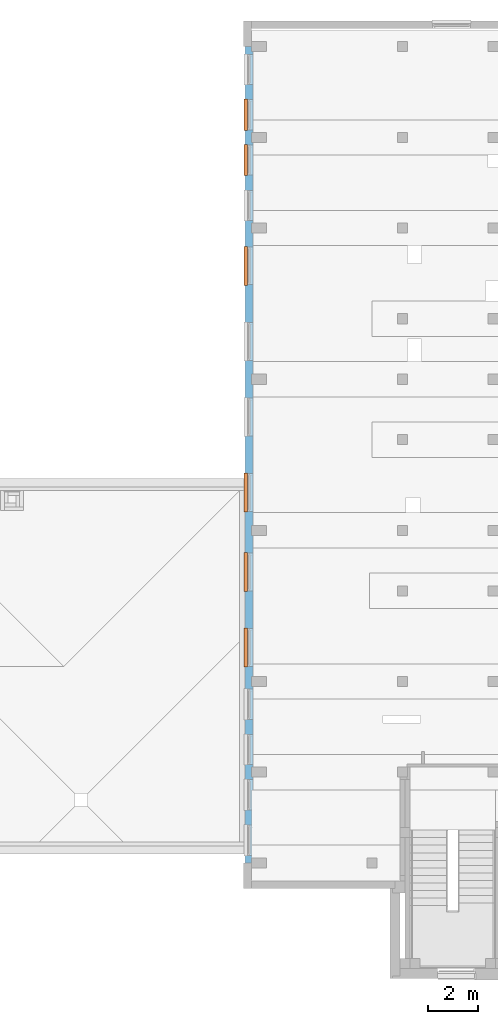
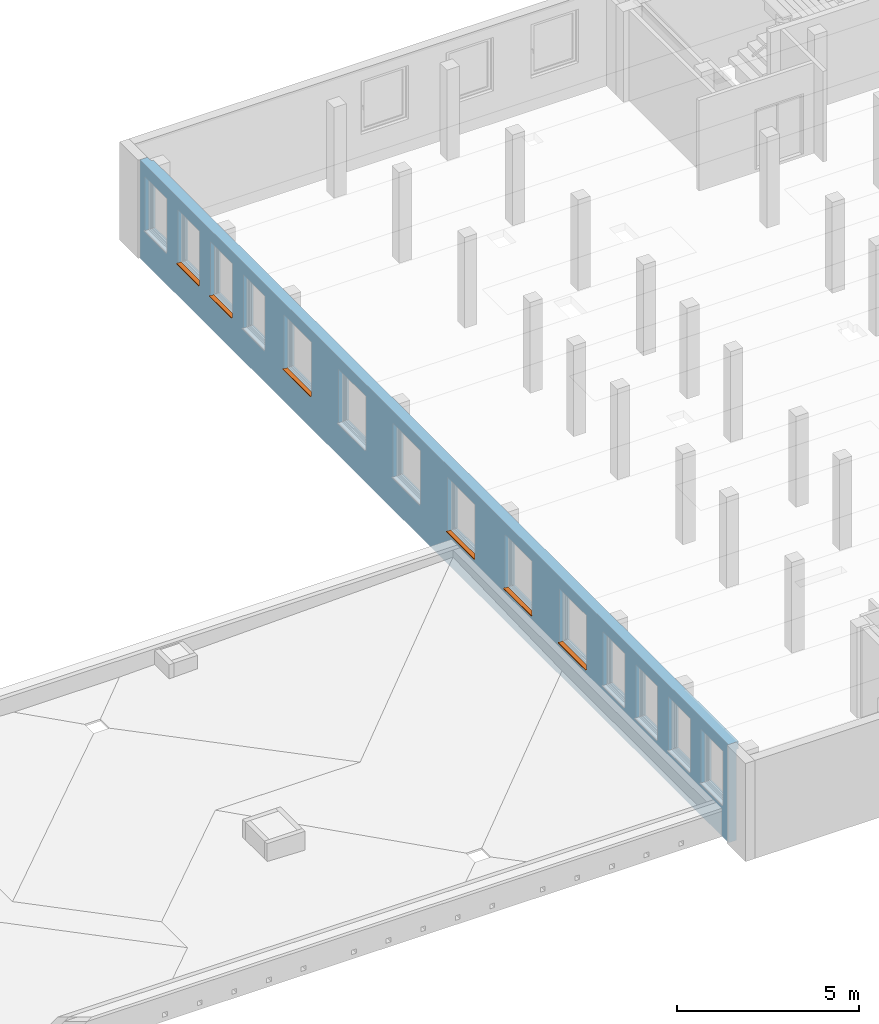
# One storey, part 20 of 27: 6 proxies, 14 openings, plus 1 element that does not belong to this part.
"""IFC4 building model written with IfcOpenShell, lengths in metres."""

from ifc_helpers import new_model, entity, si_unit, converted_unit, derived_unit, frame, origin, origin_with_axes, place, context, subcontext, project, spatial, polyline, outline, extrude, clip, bounded_halfspace, faceted_brep, source, transform, mapped, material, layer, layer_set, layer_usage, element, fill, save


model = new_model("IFC4")

# Units and contexts
model_context = context("Model", 3, precision=1e-05, world=origin())
body_context = subcontext(model_context, "Body", "Model", "MODEL_VIEW")
ifc_project = project(units=[si_unit("LENGTHUNIT", "METRE"), si_unit("AREAUNIT", "SQUARE_METRE"), si_unit("VOLUMEUNIT", "CUBIC_METRE"), si_unit("MASSUNIT", "GRAM", prefix="KILO"), converted_unit("PLANEANGLEUNIT", "DEGREE", entity("IfcPlaneAngleMeasure", 0.0174532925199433), si_unit("PLANEANGLEUNIT", "RADIAN"), dimensions=[0, 0, 0, 0, 0, 0, 0]), derived_unit("THERMALTRANSMITTANCEUNIT", [(si_unit("POWERUNIT", "WATT"), 1), (si_unit("THERMODYNAMICTEMPERATUREUNIT", "KELVIN"), -1), (si_unit("LENGTHUNIT", "METRE"), -2)]), derived_unit("VOLUMETRICFLOWRATEUNIT", [(si_unit("LENGTHUNIT", "METRE"), 3), (converted_unit("TIMEUNIT", "hour", entity("IfcTimeMeasure", 3600.0), si_unit("TIMEUNIT", "SECOND"), dimensions=[0, 0, 1, 0, 0, 0, 0]), -1), (si_unit("LENGTHUNIT", "METRE"), -1)])], contexts=[model_context])

# Site, building, storey
site_placement = place(None, origin())
site = spatial("IfcSite", under=ifc_project, at=site_placement, Name="3. ASŘ", CompositionType="ELEMENT")
building_placement = place(site_placement, origin())
building = spatial("IfcBuilding", under=site, at=building_placement, Name="Pavilon C", CompositionType="ELEMENT")
storey_placement = place(building_placement, frame((0.0, 0.0, 7.2)))
storey = spatial("IfcBuildingStorey", under=building, at=storey_placement, Name="Půdorys 3.NP", CompositionType="ELEMENT", Elevation=7.2)

# Wall, openings, proxies
ifc_material_1 = material(Name="ZELEZOBETONOVÁ KCE")
ifc_layer = layer(ifc_material_1, 0.32)
ifc_layer_set = layer_set([ifc_layer])
ifc_layer_usage = layer_usage(ifc_layer_set, "AXIS2", "POSITIVE", 0.0)
wall_placement = place(storey_placement, frame((24.5, 32.4, -0.1), z_axis=(0.0, 0.0, 1.0), x_axis=(-2.24566593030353e-16, -1.0, 0.0)))
wall = element("IfcWall", 1, at=wall_placement, inside=storey, material=ifc_layer_usage, Name="ZELEZOBETONOVÁ KCE", context=body_context, shape_type="Clipping", body=[
    clip(clip(clip(clip(clip(clip(clip(extrude(outline(polyline([(-32.4, 0.0), (-7.18613097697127e-17, -1.61376495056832e-32), (-7.18613097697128e-17, 0.32), (-32.2, 0.32), (-32.2, 0.25), (-32.4, 0.25), (-32.4, 0.0)])), frame((32.4, 0.0, 0.0), z_axis=(0.0, 0.0, 1.0), x_axis=(1.0, 0.0, 0.0)), (0.0, 0.0, 1.0), 3.3), bounded_halfspace(frame((7.2, 0.285000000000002, 3.05), z_axis=(0.0, 0.0, 1.0), x_axis=(2.24566593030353e-16, -1.0, 0.0)), True, origin_with_axes(), polyline([(7.0, 0.320000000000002), (7.0, 0.250000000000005), (7.4, 0.250000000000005), (7.4, 0.320000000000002), (7.0, 0.320000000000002)]))), bounded_halfspace(frame((3.6, 0.285000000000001, 3.05), z_axis=(0.0, 0.0, 1.0), x_axis=(2.24566593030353e-16, -1.0, 0.0)), True, origin_with_axes(), polyline([(3.4, 0.320000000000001), (3.4, 0.250000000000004), (3.8, 0.250000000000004), (3.8, 0.320000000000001), (3.4, 0.320000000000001)]))), bounded_halfspace(frame((19.2, 0.285000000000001, 3.05), z_axis=(0.0, 0.0, 1.0), x_axis=(2.24566593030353e-16, -1.0, 0.0)), True, origin_with_axes(), polyline([(19.0, 0.320000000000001), (19.0, 0.249999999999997), (19.4, 0.249999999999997), (19.4, 0.320000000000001), (19.0, 0.320000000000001)]))), bounded_halfspace(frame((25.2, 0.284999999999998, 3.05), z_axis=(0.0, 0.0, 1.0), x_axis=(2.24566593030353e-16, -1.0, 0.0)), True, origin_with_axes(), polyline([(25.0, 0.319999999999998), (25.0, 0.249999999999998), (25.4, 0.249999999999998), (25.4, 0.319999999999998), (25.0, 0.319999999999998)]))), bounded_halfspace(frame((28.8, 0.284999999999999, 3.05), z_axis=(0.0, 0.0, 1.0), x_axis=(2.24566593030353e-16, -1.0, 0.0)), True, origin_with_axes(), polyline([(28.6, 0.319999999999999), (28.6, 0.249999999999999), (29.0, 0.249999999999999), (29.0, 0.319999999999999), (28.6, 0.319999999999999)]))), bounded_halfspace(frame((32.3, 0.285, 3.05), z_axis=(0.0, 0.0, 1.0), x_axis=(2.24566593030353e-16, -1.0, 0.0)), True, origin_with_axes(), polyline([(32.2, 0.32), (32.2, 0.25), (32.4, 0.25), (32.4, 0.32), (32.2, 0.32)]))), bounded_halfspace(frame((13.2, 0.285000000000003, 3.05), z_axis=(0.0, 0.0, 1.0), x_axis=(2.24566593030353e-16, -1.0, 0.0)), True, origin_with_axes(), polyline([(13.0, 0.319999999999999), (13.0, 0.250000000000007), (13.4, 0.250000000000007), (13.4, 0.319999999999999), (13.0, 0.319999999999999)]))),
])
opening_1_placement = place(wall_placement, frame((25.5, -1.54950949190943e-15, 1.1), z_axis=(0.0, 1.0, 0.0), x_axis=(0.0, 0.0, 1.0)))
element("IfcOpeningElement", 2, at=opening_1_placement, cuts=wall, Name="Okenní otvor", ObjectType="Opening", context=body_context, shape_type="SweptSolid", body=[
    extrude(outline(polyline([(0.0, 1.2), (1.8, 1.2), (1.8, 0.0), (0.0, 0.0), (0.0, 1.2)])), origin_with_axes(), (0.0, 0.0, 1.0), 0.32),
])
opening_2_placement = place(wall_placement, frame((27.3, -1.1452896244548e-15, 1.1), z_axis=(0.0, 1.0, 0.0), x_axis=(0.0, 0.0, 1.0)))
element("IfcOpeningElement", 3, at=opening_2_placement, cuts=wall, Name="Okenní otvor", ObjectType="Opening", context=body_context, shape_type="SweptSolid", body=[
    extrude(outline(polyline([(0.0, 1.2), (1.8, 1.2), (1.8, 0.0), (0.0, 0.0), (0.0, 1.2)])), origin_with_axes(), (0.0, 0.0, 1.0), 0.32),
])
opening_3_placement = place(wall_placement, frame((29.1, -7.41069757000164e-16, 1.1), z_axis=(0.0, 1.0, 0.0), x_axis=(0.0, 0.0, 1.0)))
element("IfcOpeningElement", 4, at=opening_3_placement, cuts=wall, Name="Okenní otvor", ObjectType="Opening", context=body_context, shape_type="SweptSolid", body=[
    extrude(outline(polyline([(0.0, 1.2), (1.8, 1.2), (1.8, 0.0), (0.0, 0.0), (0.0, 1.2)])), origin_with_axes(), (0.0, 0.0, 1.0), 0.32),
])
opening_4_placement = place(wall_placement, frame((30.9, -3.36849889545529e-16, 1.1), z_axis=(0.0, 1.0, 0.0), x_axis=(0.0, 0.0, 1.0)))
element("IfcOpeningElement", 5, at=opening_4_placement, cuts=wall, Name="Okenní otvor", ObjectType="Opening", context=body_context, shape_type="SweptSolid", body=[
    extrude(outline(polyline([(0.0, 1.2), (1.8, 1.2), (1.8, 0.0), (0.0, 0.0), (0.0, 1.2)])), origin_with_axes(), (0.0, 0.0, 1.0), 0.32),
])
opening_5_placement = place(wall_placement, frame((13.95, -5.05274834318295e-16, 1.1), z_axis=(0.0, 1.0, 0.0), x_axis=(0.0, 0.0, 1.0)))
element("IfcOpeningElement", 6, at=opening_5_placement, cuts=wall, Name="Okenní otvor", ObjectType="Opening", context=body_context, shape_type="SweptSolid", body=[
    extrude(outline(polyline([(0.0, 1.5), (1.8, 1.5), (1.8, 0.0), (0.0, 0.0), (0.0, 1.5)])), origin_with_axes(), (0.0, 0.0, 1.0), 0.32),
])
opening_6_placement = place(wall_placement, frame((10.95, -1.17897461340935e-15, 1.1), z_axis=(0.0, 1.0, 0.0), x_axis=(0.0, 0.0, 1.0)))
element("IfcOpeningElement", 7, at=opening_6_placement, cuts=wall, Name="Okenní otvor", ObjectType="Opening", context=body_context, shape_type="SweptSolid", body=[
    extrude(outline(polyline([(0.0, 1.5), (1.8, 1.5), (1.8, 0.0), (0.0, 0.0), (0.0, 1.5)])), origin_with_axes(), (0.0, 0.0, 1.0), 0.32),
])
opening_7_placement = place(wall_placement, frame((16.95, 1.68424944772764e-16, 1.1), z_axis=(0.0, 1.0, 0.0), x_axis=(0.0, 0.0, 1.0)))
opening_7 = element("IfcOpeningElement", 8, at=opening_7_placement, cuts=wall, Name="Okenní otvor", ObjectType="Opening", context=body_context, shape_type="SweptSolid", body=[
    extrude(outline(polyline([(0.0, 1.5), (1.8, 1.5), (1.8, 0.0), (0.0, 0.0), (0.0, 1.5)])), origin_with_axes(), (0.0, 0.0, 1.0), 0.32),
])
opening_8_placement = place(wall_placement, frame((20.1, 8.75809712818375e-16, 1.1), z_axis=(0.0, 1.0, 0.0), x_axis=(0.0, 0.0, 1.0)))
opening_8 = element("IfcOpeningElement", 9, at=opening_8_placement, cuts=wall, Name="Okenní otvor", ObjectType="Opening", context=body_context, shape_type="SweptSolid", body=[
    extrude(outline(polyline([(0.0, 1.5), (1.8, 1.5), (1.8, 0.0), (0.0, 0.0), (0.0, 1.5)])), origin_with_axes(), (0.0, 0.0, 1.0), 0.32),
])
opening_9_placement = place(wall_placement, frame((23.1, -2.08846931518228e-15, 1.1), z_axis=(0.0, 1.0, 0.0), x_axis=(0.0, 0.0, 1.0)))
opening_9 = element("IfcOpeningElement", 10, at=opening_9_placement, cuts=wall, Name="Okenní otvor", ObjectType="Opening", context=body_context, shape_type="SweptSolid", body=[
    extrude(outline(polyline([(0.0, 1.5), (1.8, 1.5), (1.8, 0.0), (0.0, 0.0), (0.0, 1.5)])), origin_with_axes(), (0.0, 0.0, 1.0), 0.320000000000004),
])
opening_10_placement = place(wall_placement, frame((7.95, -1.85267439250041e-15, 1.1), z_axis=(0.0, 1.0, 0.0), x_axis=(0.0, 0.0, 1.0)))
opening_10 = element("IfcOpeningElement", 11, at=opening_10_placement, cuts=wall, Name="Okenní otvor", ObjectType="Opening", context=body_context, shape_type="SweptSolid", body=[
    extrude(outline(polyline([(0.0, 1.5), (1.8, 1.5), (1.8, 0.0), (0.0, 0.0), (0.0, 1.5)])), origin_with_axes(), (0.0, 0.0, 1.0), 0.320000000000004),
])
opening_11_placement = place(wall_placement, frame((2.10000000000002, 4.71589845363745e-16, 1.1), z_axis=(0.0, 1.0, 0.0), x_axis=(0.0, 0.0, 1.0)))
opening_11 = element("IfcOpeningElement", 12, at=opening_11_placement, cuts=wall, Name="Okenní otvor", ObjectType="Opening", context=body_context, shape_type="SweptSolid", body=[
    extrude(outline(polyline([(0.0, 1.2), (1.8, 1.2), (1.8, 0.0), (0.0, 0.0), (0.0, 1.2)])), origin_with_axes(), (0.0, 0.0, 1.0), 0.32),
])
opening_12_placement = place(wall_placement, frame((3.90000000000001, 8.75809712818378e-16, 1.1), z_axis=(0.0, 1.0, 0.0), x_axis=(0.0, 0.0, 1.0)))
opening_12 = element("IfcOpeningElement", 13, at=opening_12_placement, cuts=wall, Name="Okenní otvor", ObjectType="Opening", context=body_context, shape_type="SweptSolid", body=[
    extrude(outline(polyline([(0.0, 1.2), (1.8, 1.2), (1.8, 0.0), (0.0, 0.0), (0.0, 1.2)])), origin_with_axes(), (0.0, 0.0, 1.0), 0.32),
])
opening_13_placement = place(wall_placement, frame((5.7, 1.28002958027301e-15, 1.1), z_axis=(0.0, 1.0, 0.0), x_axis=(0.0, 0.0, 1.0)))
element("IfcOpeningElement", 14, at=opening_13_placement, cuts=wall, Name="Okenní otvor", ObjectType="Opening", context=body_context, shape_type="SweptSolid", body=[
    extrude(outline(polyline([(0.0, 1.2), (1.8, 1.2), (1.8, 0.0), (0.0, 0.0), (0.0, 1.2)])), origin_with_axes(), (0.0, 0.0, 1.0), 0.32),
])
opening_14_placement = place(wall_placement, frame((0.300000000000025, 6.73699779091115e-17, 1.1), z_axis=(-1.77635683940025e-16, 1.0, 0.0), x_axis=(0.0, 0.0, 1.0)))
element("IfcOpeningElement", 15, at=opening_14_placement, cuts=wall, Name="Okenní otvor", ObjectType="Opening", context=body_context, shape_type="SweptSolid", body=[
    extrude(outline(polyline([(0.0, 1.2), (1.8, 1.2), (1.8, 0.0), (0.0, 0.0), (0.0, 1.2)])), origin_with_axes(), (0.0, 0.0, 1.0), 0.32),
])
ifc_material_2 = material(Name="PLECH")
shared_shape_1 = source(origin_with_axes(), body_context, "Body", "Brep", [
    faceted_brep([(7.27595761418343e-15, -1.09139364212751e-14, 0.0), (7.27595761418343e-15, 0.0999999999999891, 0.0), (7.27595761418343e-15, 0.0999999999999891, 0.005), (7.27595761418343e-15, -1.09139364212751e-14, 0.005), (1.50000000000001, -1.09139364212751e-14, 0.0), (1.50000000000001, -1.09139364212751e-14, 0.005), (1.50000000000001, 0.0999999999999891, 0.005), (1.50000000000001, 0.0999999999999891, 0.0), (-0.0199999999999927, -1.09139364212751e-14, 0.0), (-0.0199999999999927, -0.0350000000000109, 0.0), (1.52000000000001, -0.0350000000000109, 0.0), (1.52000000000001, -1.09139364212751e-14, 0.0), (1.52000000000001, -1.09139364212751e-14, 0.005), (1.52000000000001, -0.0400000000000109, 0.005), (-0.0199999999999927, -0.0400000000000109, 0.005), (-0.0199999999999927, -1.09139364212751e-14, 0.005), (-0.0199999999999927, -0.0400000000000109, -0.025), (-0.0199999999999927, -0.0350000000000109, -0.025), (1.52000000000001, -0.0350000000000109, -0.025), (1.52000000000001, -0.0400000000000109, -0.025)], [[[0, 1, 2, 3]], [[4, 5, 6, 7]], [[1, 0, 8, 9, 10, 11, 4, 7]], [[2, 1, 7, 6]], [[3, 2, 6, 5, 12, 13, 14, 15]], [[8, 15, 14, 16, 17, 9]], [[11, 10, 18, 19, 13, 12]], [[15, 8, 0, 3]], [[5, 4, 11, 12]], [[16, 14, 13, 19]], [[17, 16, 19, 18]], [[9, 17, 18, 10]]], orient=[[False], [False], [False], [False], [False], [False], [False], [False], [False], [False], [False], [False]]),
    faceted_brep([(-0.0199999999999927, -1.09139364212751e-14, 0.0), (-0.0199999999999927, 0.0999999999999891, 0.0), (-0.0199999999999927, 0.0999999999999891, 0.005), (-0.0199999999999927, -1.09139364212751e-14, 0.005), (7.27595761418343e-15, -1.09139364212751e-14, 0.0), (7.27595761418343e-15, -1.09139364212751e-14, 0.005), (7.27595761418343e-15, 0.0999999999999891, 0.005), (7.27595761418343e-15, 0.0999999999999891, 0.0)], [[[0, 1, 2, 3]], [[4, 5, 6, 7]], [[1, 0, 4, 7]], [[2, 1, 7, 6]], [[3, 2, 6, 5]], [[0, 3, 5, 4]]], orient=[[False], [False], [False], [False], [False], [False]]),
    faceted_brep([(1.50000000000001, -1.09139364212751e-14, 0.0), (1.50000000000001, 0.0999999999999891, 0.0), (1.50000000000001, 0.0999999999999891, 0.005), (1.50000000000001, -1.09139364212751e-14, 0.005), (1.52000000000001, -1.09139364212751e-14, 0.0), (1.52000000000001, -1.09139364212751e-14, 0.005), (1.52000000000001, 0.0999999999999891, 0.005), (1.52000000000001, 0.0999999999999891, 0.0)], [[[0, 1, 2, 3]], [[4, 5, 6, 7]], [[1, 0, 4, 7]], [[2, 1, 7, 6]], [[3, 2, 6, 5]], [[0, 3, 5, 4]]], orient=[[False], [False], [False], [False], [False], [False]]),
])
proxy_1_placement = place(opening_7_placement, frame((0.0, 0.0, 0.0), z_axis=(1.0, 0.0, 0.0), x_axis=(0.0, 1.0, 0.0)))
proxy_1 = element("IfcBuildingElementProxy", 16, at=proxy_1_placement, inside=storey, material=ifc_material_2, Name="Parapet vnější", context=body_context, shape_type="MappedRepresentation", body=[
    mapped(shared_shape_1, transform((0.0, 0.0, 0.0), x_axis=(1.0, 0.0, 0.0), y_axis=(0.0, 1.0, 0.0), z_axis=(0.0, 0.0, 1.0), scale=1.0)),
])
fill(opening_7, proxy_1)
ifc_material_3 = material(Name="PLECH")
shared_shape_2 = source(origin_with_axes(), body_context, "Body", "Brep", [
    faceted_brep([(7.27595761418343e-15, -7.27595761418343e-15, 0.0), (7.27595761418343e-15, 0.0999999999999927, 0.0), (7.27595761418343e-15, 0.0999999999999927, 0.005), (7.27595761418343e-15, -7.27595761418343e-15, 0.005), (1.50000000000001, -7.27595761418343e-15, 0.0), (1.50000000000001, -7.27595761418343e-15, 0.005), (1.50000000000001, 0.0999999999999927, 0.005), (1.50000000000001, 0.0999999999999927, 0.0), (-0.0199999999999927, -7.27595761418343e-15, 0.0), (-0.0199999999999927, -0.0350000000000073, 0.0), (1.52000000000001, -0.0350000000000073, 0.0), (1.52000000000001, -7.27595761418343e-15, 0.0), (1.52000000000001, -7.27595761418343e-15, 0.005), (1.52000000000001, -0.0400000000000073, 0.005), (-0.0199999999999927, -0.0400000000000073, 0.005), (-0.0199999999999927, -7.27595761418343e-15, 0.005), (-0.0199999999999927, -0.0400000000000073, -0.025), (-0.0199999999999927, -0.0350000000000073, -0.025), (1.52000000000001, -0.0350000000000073, -0.025), (1.52000000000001, -0.0400000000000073, -0.025)], [[[0, 1, 2, 3]], [[4, 5, 6, 7]], [[1, 0, 8, 9, 10, 11, 4, 7]], [[2, 1, 7, 6]], [[3, 2, 6, 5, 12, 13, 14, 15]], [[8, 15, 14, 16, 17, 9]], [[11, 10, 18, 19, 13, 12]], [[15, 8, 0, 3]], [[5, 4, 11, 12]], [[16, 14, 13, 19]], [[17, 16, 19, 18]], [[9, 17, 18, 10]]], orient=[[False], [False], [False], [False], [False], [False], [False], [False], [False], [False], [False], [False]]),
    faceted_brep([(-0.0199999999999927, -7.27595761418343e-15, 0.0), (-0.0199999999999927, 0.0999999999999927, 0.0), (-0.0199999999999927, 0.0999999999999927, 0.005), (-0.0199999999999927, -7.27595761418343e-15, 0.005), (7.27595761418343e-15, -7.27595761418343e-15, 0.0), (7.27595761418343e-15, -7.27595761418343e-15, 0.005), (7.27595761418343e-15, 0.0999999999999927, 0.005), (7.27595761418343e-15, 0.0999999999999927, 0.0)], [[[0, 1, 2, 3]], [[4, 5, 6, 7]], [[1, 0, 4, 7]], [[2, 1, 7, 6]], [[3, 2, 6, 5]], [[0, 3, 5, 4]]], orient=[[False], [False], [False], [False], [False], [False]]),
    faceted_brep([(1.50000000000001, -7.27595761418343e-15, 0.0), (1.50000000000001, 0.0999999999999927, 0.0), (1.50000000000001, 0.0999999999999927, 0.005), (1.50000000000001, -7.27595761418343e-15, 0.005), (1.52000000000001, -7.27595761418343e-15, 0.0), (1.52000000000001, -7.27595761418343e-15, 0.005), (1.52000000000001, 0.0999999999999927, 0.005), (1.52000000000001, 0.0999999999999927, 0.0)], [[[0, 1, 2, 3]], [[4, 5, 6, 7]], [[1, 0, 4, 7]], [[2, 1, 7, 6]], [[3, 2, 6, 5]], [[0, 3, 5, 4]]], orient=[[False], [False], [False], [False], [False], [False]]),
])
proxy_2_placement = place(opening_8_placement, frame((0.0, 0.0, 0.0), z_axis=(1.0, 0.0, 0.0), x_axis=(0.0, 1.0, 0.0)))
proxy_2 = element("IfcBuildingElementProxy", 17, at=proxy_2_placement, inside=storey, material=ifc_material_3, Name="Parapet vnější", context=body_context, shape_type="MappedRepresentation", body=[
    mapped(shared_shape_2, transform((0.0, 0.0, 0.0), x_axis=(1.0, 0.0, 0.0), y_axis=(0.0, 1.0, 0.0), z_axis=(0.0, 0.0, 1.0), scale=1.0)),
])
fill(opening_8, proxy_2)
ifc_material_4 = material(Name="PLECH")
shared_shape_3 = source(origin_with_axes(), body_context, "Body", "Brep", [
    faceted_brep([(7.27595761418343e-15, -7.27595761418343e-15, 0.0), (7.27595761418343e-15, 0.0999999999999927, 0.0), (7.27595761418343e-15, 0.0999999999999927, 0.005), (7.27595761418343e-15, -7.27595761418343e-15, 0.005), (1.5, -3.63797880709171e-15, 0.0), (1.5, -3.63797880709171e-15, 0.005), (1.5, 0.0999999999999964, 0.005), (1.5, 0.0999999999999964, 0.0), (-0.0199999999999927, -7.27595761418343e-15, 0.0), (-0.0199999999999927, -0.0350000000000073, 0.0), (1.52, -0.0350000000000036, 0.0), (1.52, -3.63797880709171e-15, 0.0), (1.52, -3.63797880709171e-15, 0.005), (1.52, -0.0400000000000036, 0.005), (-0.0199999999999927, -0.0400000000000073, 0.005), (-0.0199999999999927, -7.27595761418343e-15, 0.005), (-0.0199999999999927, -0.0400000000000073, -0.025), (-0.0199999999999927, -0.0350000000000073, -0.025), (1.52, -0.0350000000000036, -0.025), (1.52, -0.0400000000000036, -0.025)], [[[0, 1, 2, 3]], [[4, 5, 6, 7]], [[1, 0, 8, 9, 10, 11, 4, 7]], [[2, 1, 7, 6]], [[3, 2, 6, 5, 12, 13, 14, 15]], [[8, 15, 14, 16, 17, 9]], [[11, 10, 18, 19, 13, 12]], [[15, 8, 0, 3]], [[5, 4, 11, 12]], [[16, 14, 13, 19]], [[17, 16, 19, 18]], [[9, 17, 18, 10]]], orient=[[False], [False], [False], [False], [False], [False], [False], [False], [False], [False], [False], [False]]),
    faceted_brep([(-0.0199999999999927, -7.27595761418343e-15, 0.0), (-0.0199999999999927, 0.0999999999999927, 0.0), (-0.0199999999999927, 0.0999999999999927, 0.005), (-0.0199999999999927, -7.27595761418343e-15, 0.005), (7.27595761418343e-15, -7.27595761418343e-15, 0.0), (7.27595761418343e-15, -7.27595761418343e-15, 0.005), (7.27595761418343e-15, 0.0999999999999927, 0.005), (7.27595761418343e-15, 0.0999999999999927, 0.0)], [[[0, 1, 2, 3]], [[4, 5, 6, 7]], [[1, 0, 4, 7]], [[2, 1, 7, 6]], [[3, 2, 6, 5]], [[0, 3, 5, 4]]], orient=[[False], [False], [False], [False], [False], [False]]),
    faceted_brep([(1.5, -3.63797880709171e-15, 0.0), (1.5, 0.0999999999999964, 0.0), (1.5, 0.0999999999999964, 0.005), (1.5, -3.63797880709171e-15, 0.005), (1.52, -3.63797880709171e-15, 0.0), (1.52, -3.63797880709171e-15, 0.005), (1.52, 0.0999999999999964, 0.005), (1.52, 0.0999999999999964, 0.0)], [[[0, 1, 2, 3]], [[4, 5, 6, 7]], [[1, 0, 4, 7]], [[2, 1, 7, 6]], [[3, 2, 6, 5]], [[0, 3, 5, 4]]], orient=[[False], [False], [False], [False], [False], [False]]),
])
proxy_3_placement = place(opening_9_placement, frame((0.0, 0.0, 0.0), z_axis=(1.0, 0.0, 0.0), x_axis=(0.0, 1.0, 0.0)))
proxy_3 = element("IfcBuildingElementProxy", 18, at=proxy_3_placement, inside=storey, material=ifc_material_4, Name="Parapet vnější", context=body_context, shape_type="MappedRepresentation", body=[
    mapped(shared_shape_3, transform((0.0, 0.0, 0.0), x_axis=(1.0, 0.0, 0.0), y_axis=(0.0, 1.0, 0.0), z_axis=(0.0, 0.0, 1.0), scale=1.0)),
])
fill(opening_9, proxy_3)
ifc_material_5 = material(Name="PLECH")
shared_shape_4 = source(origin_with_axes(), body_context, "Body", "Brep", [
    faceted_brep([(7.27595761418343e-15, -7.27595761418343e-15, 0.0), (7.27595761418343e-15, 0.0999999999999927, 0.0), (7.27595761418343e-15, 0.0999999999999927, 0.005), (7.27595761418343e-15, -7.27595761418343e-15, 0.005), (1.50000000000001, -3.63797880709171e-15, 0.0), (1.50000000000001, -3.63797880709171e-15, 0.005), (1.50000000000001, 0.0999999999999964, 0.005), (1.50000000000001, 0.0999999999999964, 0.0), (-0.0199999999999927, -7.27595761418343e-15, 0.0), (-0.0199999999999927, -0.0350000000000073, 0.0), (1.52000000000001, -0.0350000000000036, 0.0), (1.52000000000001, -3.63797880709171e-15, 0.0), (1.52000000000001, -3.63797880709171e-15, 0.005), (1.52000000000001, -0.0400000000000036, 0.005), (-0.0199999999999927, -0.0400000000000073, 0.005), (-0.0199999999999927, -7.27595761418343e-15, 0.005), (-0.0199999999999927, -0.0400000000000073, -0.025), (-0.0199999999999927, -0.0350000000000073, -0.025), (1.52000000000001, -0.0350000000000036, -0.025), (1.52000000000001, -0.0400000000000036, -0.025)], [[[0, 1, 2, 3]], [[4, 5, 6, 7]], [[1, 0, 8, 9, 10, 11, 4, 7]], [[2, 1, 7, 6]], [[3, 2, 6, 5, 12, 13, 14, 15]], [[8, 15, 14, 16, 17, 9]], [[11, 10, 18, 19, 13, 12]], [[15, 8, 0, 3]], [[5, 4, 11, 12]], [[16, 14, 13, 19]], [[17, 16, 19, 18]], [[9, 17, 18, 10]]], orient=[[False], [False], [False], [False], [False], [False], [False], [False], [False], [False], [False], [False]]),
    faceted_brep([(-0.0199999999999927, -7.27595761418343e-15, 0.0), (-0.0199999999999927, 0.0999999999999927, 0.0), (-0.0199999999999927, 0.0999999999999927, 0.005), (-0.0199999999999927, -7.27595761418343e-15, 0.005), (7.27595761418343e-15, -7.27595761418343e-15, 0.0), (7.27595761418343e-15, -7.27595761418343e-15, 0.005), (7.27595761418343e-15, 0.0999999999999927, 0.005), (7.27595761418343e-15, 0.0999999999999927, 0.0)], [[[0, 1, 2, 3]], [[4, 5, 6, 7]], [[1, 0, 4, 7]], [[2, 1, 7, 6]], [[3, 2, 6, 5]], [[0, 3, 5, 4]]], orient=[[False], [False], [False], [False], [False], [False]]),
    faceted_brep([(1.50000000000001, -3.63797880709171e-15, 0.0), (1.50000000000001, 0.0999999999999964, 0.0), (1.50000000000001, 0.0999999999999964, 0.005), (1.50000000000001, -3.63797880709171e-15, 0.005), (1.52000000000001, -3.63797880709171e-15, 0.0), (1.52000000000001, -3.63797880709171e-15, 0.005), (1.52000000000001, 0.0999999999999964, 0.005), (1.52000000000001, 0.0999999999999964, 0.0)], [[[0, 1, 2, 3]], [[4, 5, 6, 7]], [[1, 0, 4, 7]], [[2, 1, 7, 6]], [[3, 2, 6, 5]], [[0, 3, 5, 4]]], orient=[[False], [False], [False], [False], [False], [False]]),
])
proxy_4_placement = place(opening_10_placement, frame((0.0, 0.0, 0.0), z_axis=(1.0, 0.0, 0.0), x_axis=(0.0, 1.0, 0.0)))
proxy_4 = element("IfcBuildingElementProxy", 19, at=proxy_4_placement, inside=storey, material=ifc_material_5, Name="Parapet vnější", context=body_context, shape_type="MappedRepresentation", body=[
    mapped(shared_shape_4, transform((0.0, 0.0, 0.0), x_axis=(1.0, 0.0, 0.0), y_axis=(0.0, 1.0, 0.0), z_axis=(0.0, 0.0, 1.0), scale=1.0)),
])
fill(opening_10, proxy_4)
ifc_material_6 = material(Name="PLECH")
shared_shape_5 = source(origin_with_axes(), body_context, "Body", "Brep", [
    faceted_brep([(7.27595761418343e-15, -7.27595761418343e-15, 0.0), (7.27595761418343e-15, 0.0999999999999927, 0.0), (7.27595761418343e-15, 0.0999999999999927, 0.005), (7.27595761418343e-15, -7.27595761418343e-15, 0.005), (1.20000000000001, -7.27595761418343e-15, 0.0), (1.20000000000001, -7.27595761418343e-15, 0.005), (1.20000000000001, 0.0999999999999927, 0.005), (1.20000000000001, 0.0999999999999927, 0.0), (-0.0199999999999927, -7.27595761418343e-15, 0.0), (-0.0199999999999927, -0.0350000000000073, 0.0), (1.22000000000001, -0.0350000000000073, 0.0), (1.22000000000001, -7.27595761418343e-15, 0.0), (1.22000000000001, -7.27595761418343e-15, 0.005), (1.22000000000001, -0.0400000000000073, 0.005), (-0.0199999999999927, -0.0400000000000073, 0.005), (-0.0199999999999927, -7.27595761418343e-15, 0.005), (-0.0199999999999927, -0.0400000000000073, -0.025), (-0.0199999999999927, -0.0350000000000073, -0.025), (1.22000000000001, -0.0350000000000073, -0.025), (1.22000000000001, -0.0400000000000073, -0.025)], [[[0, 1, 2, 3]], [[4, 5, 6, 7]], [[1, 0, 8, 9, 10, 11, 4, 7]], [[2, 1, 7, 6]], [[3, 2, 6, 5, 12, 13, 14, 15]], [[8, 15, 14, 16, 17, 9]], [[11, 10, 18, 19, 13, 12]], [[15, 8, 0, 3]], [[5, 4, 11, 12]], [[16, 14, 13, 19]], [[17, 16, 19, 18]], [[9, 17, 18, 10]]], orient=[[False], [False], [False], [False], [False], [False], [False], [False], [False], [False], [False], [False]]),
    faceted_brep([(-0.0199999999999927, -7.27595761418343e-15, 0.0), (-0.0199999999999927, 0.0999999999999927, 0.0), (-0.0199999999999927, 0.0999999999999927, 0.005), (-0.0199999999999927, -7.27595761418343e-15, 0.005), (7.27595761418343e-15, -7.27595761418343e-15, 0.0), (7.27595761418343e-15, -7.27595761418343e-15, 0.005), (7.27595761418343e-15, 0.0999999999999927, 0.005), (7.27595761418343e-15, 0.0999999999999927, 0.0)], [[[0, 1, 2, 3]], [[4, 5, 6, 7]], [[1, 0, 4, 7]], [[2, 1, 7, 6]], [[3, 2, 6, 5]], [[0, 3, 5, 4]]], orient=[[False], [False], [False], [False], [False], [False]]),
    faceted_brep([(1.20000000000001, -7.27595761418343e-15, 0.0), (1.20000000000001, 0.0999999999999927, 0.0), (1.20000000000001, 0.0999999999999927, 0.005), (1.20000000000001, -7.27595761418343e-15, 0.005), (1.22000000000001, -7.27595761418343e-15, 0.0), (1.22000000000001, -7.27595761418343e-15, 0.005), (1.22000000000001, 0.0999999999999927, 0.005), (1.22000000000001, 0.0999999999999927, 0.0)], [[[0, 1, 2, 3]], [[4, 5, 6, 7]], [[1, 0, 4, 7]], [[2, 1, 7, 6]], [[3, 2, 6, 5]], [[0, 3, 5, 4]]], orient=[[False], [False], [False], [False], [False], [False]]),
])
proxy_5_placement = place(opening_11_placement, frame((0.0, 0.0, 0.0), z_axis=(1.0, 0.0, 0.0), x_axis=(0.0, 1.0, 0.0)))
proxy_5 = element("IfcBuildingElementProxy", 20, at=proxy_5_placement, inside=storey, material=ifc_material_6, Name="Parapet vnější", context=body_context, shape_type="MappedRepresentation", body=[
    mapped(shared_shape_5, transform((0.0, 0.0, 0.0), x_axis=(1.0, 0.0, 0.0), y_axis=(0.0, 1.0, 0.0), z_axis=(0.0, 0.0, 1.0), scale=1.0)),
])
fill(opening_11, proxy_5)
ifc_material_7 = material(Name="PLECH")
shared_shape_6 = source(origin_with_axes(), body_context, "Body", "Brep", [
    faceted_brep([(7.27595761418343e-15, -7.27595761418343e-15, 0.0), (7.27595761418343e-15, 0.0999999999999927, 0.0), (7.27595761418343e-15, 0.0999999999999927, 0.005), (7.27595761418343e-15, -7.27595761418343e-15, 0.005), (1.20000000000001, -7.27595761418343e-15, 0.0), (1.20000000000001, -7.27595761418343e-15, 0.005), (1.20000000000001, 0.0999999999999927, 0.005), (1.20000000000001, 0.0999999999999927, 0.0), (-0.0199999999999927, -7.27595761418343e-15, 0.0), (-0.0199999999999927, -0.0350000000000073, 0.0), (1.22000000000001, -0.0350000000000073, 0.0), (1.22000000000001, -7.27595761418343e-15, 0.0), (1.22000000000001, -7.27595761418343e-15, 0.005), (1.22000000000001, -0.0400000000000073, 0.005), (-0.0199999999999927, -0.0400000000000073, 0.005), (-0.0199999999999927, -7.27595761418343e-15, 0.005), (-0.0199999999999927, -0.0400000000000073, -0.025), (-0.0199999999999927, -0.0350000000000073, -0.025), (1.22000000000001, -0.0350000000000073, -0.025), (1.22000000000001, -0.0400000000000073, -0.025)], [[[0, 1, 2, 3]], [[4, 5, 6, 7]], [[1, 0, 8, 9, 10, 11, 4, 7]], [[2, 1, 7, 6]], [[3, 2, 6, 5, 12, 13, 14, 15]], [[8, 15, 14, 16, 17, 9]], [[11, 10, 18, 19, 13, 12]], [[15, 8, 0, 3]], [[5, 4, 11, 12]], [[16, 14, 13, 19]], [[17, 16, 19, 18]], [[9, 17, 18, 10]]], orient=[[False], [False], [False], [False], [False], [False], [False], [False], [False], [False], [False], [False]]),
    faceted_brep([(-0.0199999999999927, -7.27595761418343e-15, 0.0), (-0.0199999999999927, 0.0999999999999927, 0.0), (-0.0199999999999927, 0.0999999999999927, 0.005), (-0.0199999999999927, -7.27595761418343e-15, 0.005), (7.27595761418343e-15, -7.27595761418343e-15, 0.0), (7.27595761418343e-15, -7.27595761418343e-15, 0.005), (7.27595761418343e-15, 0.0999999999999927, 0.005), (7.27595761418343e-15, 0.0999999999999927, 0.0)], [[[0, 1, 2, 3]], [[4, 5, 6, 7]], [[1, 0, 4, 7]], [[2, 1, 7, 6]], [[3, 2, 6, 5]], [[0, 3, 5, 4]]], orient=[[False], [False], [False], [False], [False], [False]]),
    faceted_brep([(1.20000000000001, -7.27595761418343e-15, 0.0), (1.20000000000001, 0.0999999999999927, 0.0), (1.20000000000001, 0.0999999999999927, 0.005), (1.20000000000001, -7.27595761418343e-15, 0.005), (1.22000000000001, -7.27595761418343e-15, 0.0), (1.22000000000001, -7.27595761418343e-15, 0.005), (1.22000000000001, 0.0999999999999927, 0.005), (1.22000000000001, 0.0999999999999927, 0.0)], [[[0, 1, 2, 3]], [[4, 5, 6, 7]], [[1, 0, 4, 7]], [[2, 1, 7, 6]], [[3, 2, 6, 5]], [[0, 3, 5, 4]]], orient=[[False], [False], [False], [False], [False], [False]]),
])
proxy_6_placement = place(opening_12_placement, frame((0.0, 0.0, 0.0), z_axis=(1.0, 0.0, 0.0), x_axis=(0.0, 1.0, 0.0)))
proxy_6 = element("IfcBuildingElementProxy", 21, at=proxy_6_placement, inside=storey, material=ifc_material_7, Name="Parapet vnější", context=body_context, shape_type="MappedRepresentation", body=[
    mapped(shared_shape_6, transform((0.0, 0.0, 0.0), x_axis=(1.0, 0.0, 0.0), y_axis=(0.0, 1.0, 0.0), z_axis=(0.0, 0.0, 1.0), scale=1.0)),
])
fill(opening_12, proxy_6)

save(model, "model.ifc")
